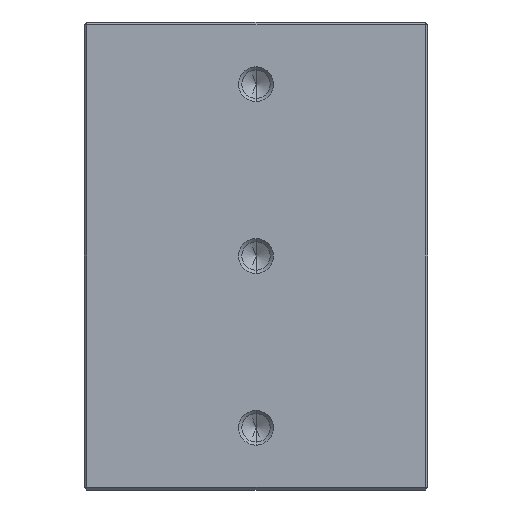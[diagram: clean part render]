
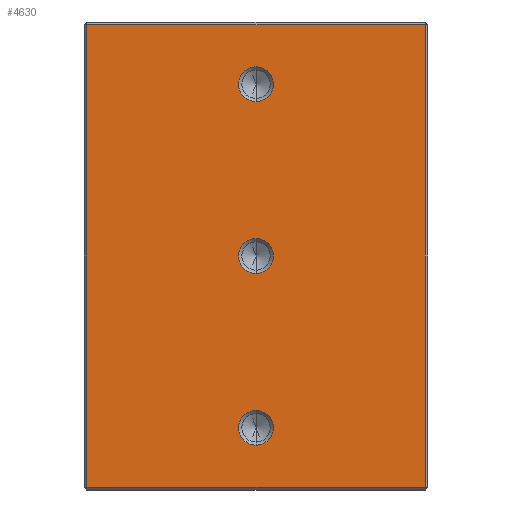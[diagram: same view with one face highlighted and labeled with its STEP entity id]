
A CAD part, front view. The second image highlights one B-rep face of the part: STEP entity #4630.
In plain terms, the highlighted planar face has unit normal (0, -1, 0).
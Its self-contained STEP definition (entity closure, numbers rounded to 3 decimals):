
#46 = CARTESIAN_POINT ( 'NONE',  ( 0., -22., 29.75 ) ) ;
#177 = CARTESIAN_POINT ( 'NONE',  ( 0., -22., 11.775 ) ) ;
#475 = DIRECTION ( 'NONE',  ( 0., -1., 0. ) ) ;
#491 = AXIS2_PLACEMENT_3D ( 'NONE', #1045, #3546, #4724 ) ;
#551 = DIRECTION ( 'NONE',  ( 1., 0., 0. ) ) ;
#763 = VERTEX_POINT ( 'NONE', #2672 ) ;
#954 = VERTEX_POINT ( 'NONE', #3615 ) ;
#1014 = EDGE_CURVE ( 'NONE', #954, #2197, #3717, .T. ) ;
#1045 = CARTESIAN_POINT ( 'NONE',  ( 0., -22., -10.25 ) ) ;
#1110 = LINE ( 'NONE', #3231, #5154 ) ;
#1118 = EDGE_CURVE ( 'NONE', #1735, #1550, #3346, .T. ) ;
#1137 = CARTESIAN_POINT ( 'NONE',  ( -19.7, -22., -17.2 ) ) ;
#1202 = CARTESIAN_POINT ( 'NONE',  ( -20., -22., 37. ) ) ;
#1211 = VERTEX_POINT ( 'NONE', #1811 ) ;
#1260 = AXIS2_PLACEMENT_3D ( 'NONE', #1730, #3392, #5034 ) ;
#1288 = CARTESIAN_POINT ( 'NONE',  ( 19.7, -22., 36.7 ) ) ;
#1292 = EDGE_CURVE ( 'NONE', #3153, #3247, #1110, .T. ) ;
#1403 = EDGE_LOOP ( 'NONE', ( #2693, #4505, #2073, #4949 ) ) ;
#1550 = VERTEX_POINT ( 'NONE', #2215 ) ;
#1579 = DIRECTION ( 'NONE',  ( 0., 1., 0. ) ) ;
#1616 = DIRECTION ( 'NONE',  ( 0., 0., -1. ) ) ;
#1627 = VERTEX_POINT ( 'NONE', #177 ) ;
#1638 = VERTEX_POINT ( 'NONE', #4661 ) ;
#1675 = EDGE_LOOP ( 'NONE', ( #4991, #3296 ) ) ;
#1703 = CIRCLE ( 'NONE', #491, 2.025 ) ;
#1730 = CARTESIAN_POINT ( 'NONE',  ( 0., -22., 29.75 ) ) ;
#1735 = VERTEX_POINT ( 'NONE', #5165 ) ;
#1811 = CARTESIAN_POINT ( 'NONE',  ( 0., -22., -8.225 ) ) ;
#1823 = AXIS2_PLACEMENT_3D ( 'NONE', #46, #475, #3435 ) ;
#2072 = FACE_BOUND ( 'NONE', #2279, .T. ) ;
#2073 = ORIENTED_EDGE ( 'NONE', *, *, #1014, .T. ) ;
#2197 = VERTEX_POINT ( 'NONE', #1137 ) ;
#2215 = CARTESIAN_POINT ( 'NONE',  ( 0., -22., 27.725 ) ) ;
#2224 = EDGE_CURVE ( 'NONE', #763, #1211, #4306, .T. ) ;
#2264 = ORIENTED_EDGE ( 'NONE', *, *, #2224, .F. ) ;
#2279 = EDGE_LOOP ( 'NONE', ( #2264, #5053 ) ) ;
#2490 = AXIS2_PLACEMENT_3D ( 'NONE', #1202, #1579, #4508 ) ;
#2549 = EDGE_CURVE ( 'NONE', #1627, #1638, #5226, .T. ) ;
#2595 = LINE ( 'NONE', #4962, #3852 ) ;
#2672 = CARTESIAN_POINT ( 'NONE',  ( 0., -22., -12.275 ) ) ;
#2693 = ORIENTED_EDGE ( 'NONE', *, *, #1292, .T. ) ;
#2712 = EDGE_CURVE ( 'NONE', #2197, #3153, #4270, .T. ) ;
#2733 = AXIS2_PLACEMENT_3D ( 'NONE', #4191, #3386, #4249 ) ;
#2779 = DIRECTION ( 'NONE',  ( 0., -1., 0. ) ) ;
#2788 = CIRCLE ( 'NONE', #1823, 2.025 ) ;
#2812 = PLANE ( 'NONE',  #2490 ) ;
#2827 = CARTESIAN_POINT ( 'NONE',  ( 0., -22., -10.25 ) ) ;
#2838 = ORIENTED_EDGE ( 'NONE', *, *, #2549, .F. ) ;
#2849 = CARTESIAN_POINT ( 'NONE',  ( 0., -22., 9.75 ) ) ;
#2922 = FACE_BOUND ( 'NONE', #4861, .T. ) ;
#2947 = DIRECTION ( 'NONE',  ( -1., 0., 0. ) ) ;
#3084 = CARTESIAN_POINT ( 'NONE',  ( 20., -22., -17.2 ) ) ;
#3119 = EDGE_CURVE ( 'NONE', #1638, #1627, #3679, .T. ) ;
#3153 = VERTEX_POINT ( 'NONE', #3735 ) ;
#3185 = DIRECTION ( 'NONE',  ( 0., 0., -1. ) ) ;
#3220 = EDGE_CURVE ( 'NONE', #1550, #1735, #2788, .T. ) ;
#3231 = CARTESIAN_POINT ( 'NONE',  ( 19.7, -22., 37. ) ) ;
#3247 = VERTEX_POINT ( 'NONE', #1288 ) ;
#3296 = ORIENTED_EDGE ( 'NONE', *, *, #1118, .F. ) ;
#3346 = CIRCLE ( 'NONE', #1260, 2.025 ) ;
#3365 = AXIS2_PLACEMENT_3D ( 'NONE', #2827, #2779, #3185 ) ;
#3386 = DIRECTION ( 'NONE',  ( 0., -1., 0. ) ) ;
#3392 = DIRECTION ( 'NONE',  ( 0., -1., 0. ) ) ;
#3435 = DIRECTION ( 'NONE',  ( 0., 0., -1. ) ) ;
#3546 = DIRECTION ( 'NONE',  ( 0., -1., 0. ) ) ;
#3592 = EDGE_CURVE ( 'NONE', #3247, #954, #2595, .T. ) ;
#3615 = CARTESIAN_POINT ( 'NONE',  ( -19.7, -22., 36.7 ) ) ;
#3679 = CIRCLE ( 'NONE', #4108, 2.025 ) ;
#3717 = LINE ( 'NONE', #5332, #4034 ) ;
#3735 = CARTESIAN_POINT ( 'NONE',  ( 19.7, -22., -17.2 ) ) ;
#3852 = VECTOR ( 'NONE', #2947, 1000. ) ;
#4034 = VECTOR ( 'NONE', #4950, 1000. ) ;
#4108 = AXIS2_PLACEMENT_3D ( 'NONE', #2849, #5322, #1616 ) ;
#4191 = CARTESIAN_POINT ( 'NONE',  ( 0., -22., 9.75 ) ) ;
#4200 = VECTOR ( 'NONE', #551, 1000. ) ;
#4249 = DIRECTION ( 'NONE',  ( 0., 0., -1. ) ) ;
#4270 = LINE ( 'NONE', #3084, #4200 ) ;
#4306 = CIRCLE ( 'NONE', #3365, 2.025 ) ;
#4505 = ORIENTED_EDGE ( 'NONE', *, *, #3592, .T. ) ;
#4508 = DIRECTION ( 'NONE',  ( 0., 0., 1. ) ) ;
#4528 = EDGE_CURVE ( 'NONE', #1211, #763, #1703, .T. ) ;
#4567 = FACE_BOUND ( 'NONE', #1675, .T. ) ;
#4630 = ADVANCED_FACE ( 'NONE', ( #5314, #2072, #2922, #4567 ), #2812, .F. ) ;
#4661 = CARTESIAN_POINT ( 'NONE',  ( 0., -22., 7.725 ) ) ;
#4724 = DIRECTION ( 'NONE',  ( 0., 0., -1. ) ) ;
#4861 = EDGE_LOOP ( 'NONE', ( #4987, #2838 ) ) ;
#4949 = ORIENTED_EDGE ( 'NONE', *, *, #2712, .T. ) ;
#4950 = DIRECTION ( 'NONE',  ( 0., 0., -1. ) ) ;
#4962 = CARTESIAN_POINT ( 'NONE',  ( -20., -22., 36.7 ) ) ;
#4987 = ORIENTED_EDGE ( 'NONE', *, *, #3119, .F. ) ;
#4991 = ORIENTED_EDGE ( 'NONE', *, *, #3220, .F. ) ;
#5034 = DIRECTION ( 'NONE',  ( 0., 0., -1. ) ) ;
#5053 = ORIENTED_EDGE ( 'NONE', *, *, #4528, .F. ) ;
#5154 = VECTOR ( 'NONE', #5218, 1000. ) ;
#5165 = CARTESIAN_POINT ( 'NONE',  ( 0., -22., 31.775 ) ) ;
#5218 = DIRECTION ( 'NONE',  ( 0., 0., 1. ) ) ;
#5226 = CIRCLE ( 'NONE', #2733, 2.025 ) ;
#5314 = FACE_OUTER_BOUND ( 'NONE', #1403, .T. ) ;
#5322 = DIRECTION ( 'NONE',  ( 0., -1., 0. ) ) ;
#5332 = CARTESIAN_POINT ( 'NONE',  ( -19.7, -22., 37. ) ) ;
